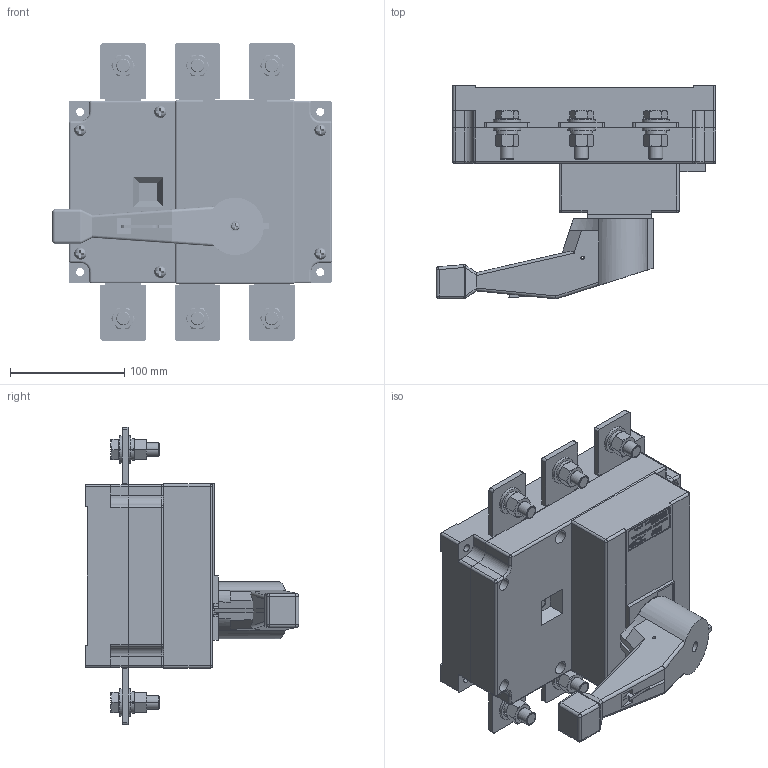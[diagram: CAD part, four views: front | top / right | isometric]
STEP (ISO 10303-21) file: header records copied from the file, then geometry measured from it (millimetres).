
FILE_DESCRIPTION((''),'2;1');
FILE_NAME('2TZD_504_1006_ASM','2016-08-17T',('Administrator'),(''),'PRO/ENGINEER BY PARAMETRIC TECHNOLOGY CORPORATION, 2013050','PRO/ENGINEER BY PARAMETRIC TECHNOLOGY CORPORATION, 2013050','');
FILE_SCHEMA(('CONFIG_CONTROL_DESIGN'));
Products named in the file (35): 8TZD_022_1019; 8TZD_557_1064; 0GB-T5783-011; 2GB-T6172-1-002; 5TZD_022_1024_ASM; 8TZD_742_1150; 8TZD_235_1019; 8TZD_557_1062; 8TZD_557_1063; 8TZD_285_1011; 5TZD_558_1075_ASM; 8TZD_060_1004; 8TZD_268_1007; 8TZD_201_1018; 8TZD_288_1068; 8TZD_005_1020; 8TZD_235_1020; GB818-M6X30; 3GB71-002; 5TZD_005_1007_ASM; 3GB818-076; 2GB6172-2-003; 8TZD_860_1061; 6TZD_250_1011_ASM; 8TZD_100_1057; 8TZD_253_1085; 8TZD_140_1009; 6GB-879-2-002; 5TZD_253_1018_ASM; 3GB845-011; GB-T97_1-12; GB-T-93-12; 0GB-T5783-012; 2GB-T6170-004; 2TZD_504_1006_ASM
Assembly tree (110 placements, depth 4):
  2TZD_504_1006_ASM
    6TZD_250_1011_ASM
      5TZD_022_1024_ASM
        8TZD_022_1019
        8TZD_557_1064  x6
        0GB-T5783-011  x12
        2GB-T6172-1-002  x12
      8TZD_742_1150  x2
      5TZD_558_1075_ASM
        8TZD_235_1019
        8TZD_557_1062  x3
        8TZD_557_1063  x3
        8TZD_285_1011  x6
      5TZD_005_1007_ASM
        8TZD_060_1004
        8TZD_268_1007
        8TZD_201_1018
        8TZD_288_1068
        8TZD_005_1020
        8TZD_235_1020
        GB818-M6X30  x4
        3GB71-002
      3GB818-076  x6
      2GB6172-2-003  x6
      8TZD_860_1061
    8TZD_100_1057
    5TZD_253_1018_ASM
      8TZD_253_1085
      8TZD_140_1009
      6GB-879-2-002
    3GB845-011
    GB-T97_1-12  x12
    GB-T-93-12  x6
    0GB-T5783-012  x6
    2GB-T6170-004  x6
Bounding box: 244.51 x 186.8 x 260 mm (x, y, z)
Volume: 1727966.8 mm3; surface area: 688362.8 mm2
Topology: 137 solids, 210 shells, 7711 faces, 20812 edges, 13592 vertices
Faces by surface type: plane 6010, cylinder 920, cone 609, torus 97, sphere 46, bspline 29
Entity records: 187864 total; most frequent: CARTESIAN_POINT 36575, ORIENTED_EDGE 32296, DIRECTION 29069, EDGE_CURVE 16174, VECTOR 14701, LINE 14701, VERTEX_POINT 10707, AXIS2_PLACEMENT_3D 7184
